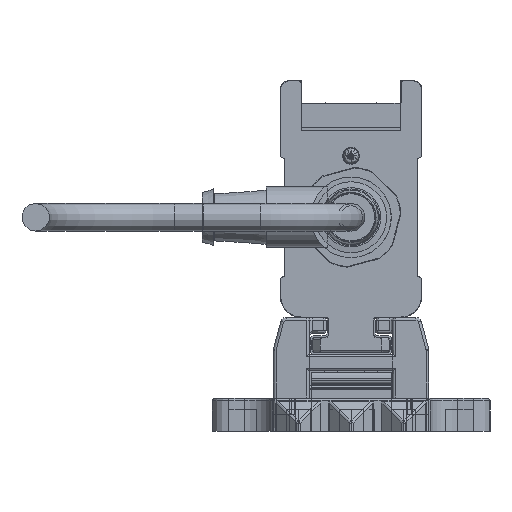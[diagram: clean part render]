
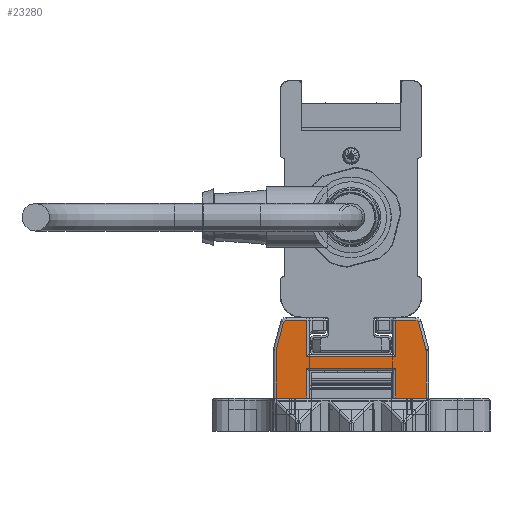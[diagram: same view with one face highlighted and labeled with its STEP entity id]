
A CAD part, left-side view. The second image highlights one B-rep face of the part: STEP entity #23280.
In plain terms, the highlighted planar face has unit normal (-1, 0, 0).
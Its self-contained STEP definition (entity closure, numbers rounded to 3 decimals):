
#23280=ADVANCED_FACE('', (#23290), #23300, .T.);
#141290=AXIS2_PLACEMENT_3D('Ax2Pl3d', #141300, #141310, #141320);
#141530=AXIS2_PLACEMENT_3D('Ax2Pl3d', #141540, #141550, #141560);
#146410=AXIS2_PLACEMENT_3D('Ax2Pl3d', #146420, #146430, #146440);
#151490=AXIS2_PLACEMENT_3D('Ax2Pl3d', #151500, #151510, #151520);
#161170=AXIS2_PLACEMENT_3D('Ax2Pl3d', #161180, #161190, #161200);
#583560=CARTESIAN_POINT('', (-747.669,-3846.345,
331.37));
#141300=CARTESIAN_POINT('HicPkt', (-747.669,-3845.379,
331.111));
#583570=CARTESIAN_POINT('', (-747.669,-3846.379,
331.111));
#583580=CARTESIAN_POINT('', (-747.669,-3845.037,
336.255));
#583600=CARTESIAN_POINT('', (-747.669,-3845.037,
336.255));
#583630=CARTESIAN_POINT('', (-747.669,-3844.554,
336.625));
#141540=CARTESIAN_POINT('HicPkt', (-747.669,-3844.554,
336.125));
#583850=CARTESIAN_POINT('', (-747.669,-3846.379,
322.625));
#583860=CARTESIAN_POINT('', (-747.669,-3840.881,
322.625));
#583870=CARTESIAN_POINT('', (-747.669,-3840.881,
322.625));
#583950=CARTESIAN_POINT('', (-747.669,-3824.881,
322.625));
#583960=CARTESIAN_POINT('', (-747.669,-3819.383,
322.625));
#583970=CARTESIAN_POINT('', (-747.669,-3819.383,
322.625));
#146420=CARTESIAN_POINT('HicPkt', (-747.669,-3821.209,
336.125));
#586440=CARTESIAN_POINT('', (-747.669,-3820.726,
336.255));
#586450=CARTESIAN_POINT('', (-747.669,-3821.209,
336.625));
#586460=CARTESIAN_POINT('', (-747.669,-3840.881,
330.025));
#586470=CARTESIAN_POINT('', (-747.669,-3824.881,
330.025));
#586480=CARTESIAN_POINT('', (-747.669,-3840.881,
330.025));
#586640=CARTESIAN_POINT('', (-747.669,-3840.881,
328.005));
#586650=CARTESIAN_POINT('', (-747.669,-3824.881,
328.005));
#586660=CARTESIAN_POINT('', (-747.669,-3824.881,
328.005));
#586670=CARTESIAN_POINT('', (-747.669,-3840.881,
328.005));
#586690=CARTESIAN_POINT('', (-747.669,-3824.881,
322.625));
#586700=CARTESIAN_POINT('', (-747.669,-3824.881,
330.025));
#586710=CARTESIAN_POINT('', (-747.669,-3824.881,
336.625));
#587560=CARTESIAN_POINT('', (-747.669,-3824.881,
336.625));
#587570=CARTESIAN_POINT('', (-747.669,-3820.726,
336.255));
#587580=CARTESIAN_POINT('', (-747.669,-3819.417,
331.37));
#587770=CARTESIAN_POINT('', (-747.669,-3819.383,
331.111));
#587780=CARTESIAN_POINT('', (-747.669,-3819.383,
331.111));
#151500=CARTESIAN_POINT('HicPkt', (-747.669,-3820.383,
331.111));
#588590=CARTESIAN_POINT('', (-747.669,-3846.379,
331.111));
#161180=CARTESIAN_POINT('HicPkt', (-747.669,-3844.554,
336.625));
#590390=CARTESIAN_POINT('', (-747.669,-3840.881,
336.625));
#590400=CARTESIAN_POINT('', (-747.669,-3840.881,
336.625));
#590410=CARTESIAN_POINT('', (-747.669,-3840.881,
336.625));
#675070=CIRCLE('Circle', #141290, 1.);
#675110=CIRCLE('Circle', #141530, 0.5);
#675690=CIRCLE('Circle', #146410, 0.5);
#676220=CIRCLE('Circle', #151490, 1.);
#141310=DIRECTION('Axis', (-1.,0.,
0.));
#141320=DIRECTION('RefDirection', (0.,
0.,-1.));
#942570=DIRECTION('', (0.,0.259,
0.966));
#141550=DIRECTION('Axis', (-1.,0.,
0.));
#141560=DIRECTION('RefDirection', (0.,
0.,-1.));
#942680=DIRECTION('', (0.,1.,0.));
#942720=DIRECTION('', (0.,1.,0.));
#146430=DIRECTION('Axis', (1.,0.,
0.));
#146440=DIRECTION('RefDirection', (0.,
0.,-1.));
#943910=DIRECTION('', (0.,-1.,0.));
#944010=DIRECTION('', (0.,1.,0.));
#944020=DIRECTION('', (0.,0.,1.));
#944040=DIRECTION('', (0.,0.,-1.));
#944050=DIRECTION('', (0.,0.,-1.));
#944480=DIRECTION('', (0.,-1.,0.));
#944490=DIRECTION('', (0.,-0.259,0.966));
#944580=DIRECTION('', (0.,0.,1.));
#151510=DIRECTION('Axis', (1.,0.,
0.));
#151520=DIRECTION('RefDirection', (0.,
0.,-1.));
#944950=DIRECTION('', (0.,0.,1.));
#161190=DIRECTION('Axis', (-1.,0.,
0.));
#161200=DIRECTION('RefDirection', (0.,
0.,-1.));
#945790=DIRECTION('', (0.,1.,0.));
#945800=DIRECTION('', (0.,0.,1.));
#1009400=EDGE_CURVE('', #1009410, #1009390, #675070, .T.);
#1009460=EDGE_CURVE('', #1009390, #1009440, #1009470, .T.);
#1009530=EDGE_CURVE('', #1009440, #1009520, #675110, .T.);
#1009980=EDGE_CURVE('', #1009970, #1009990, #1010000, .T.);
#1010140=EDGE_CURVE('', #1010130, #1010150, #1010160, .T.);
#1014500=EDGE_CURVE('', #1014510, #1014520, #675690, .T.);
#1014550=EDGE_CURVE('', #1014560, #1014570, #1014580, .T.);
#1014920=EDGE_CURVE('', #1014900, #1014930, #1014940, .T.);
#1014970=EDGE_CURVE('', #1009990, #1014900, #1014980, .T.);
#1015010=EDGE_CURVE('', #1014930, #1010130, #1015020, .T.);
#1015030=EDGE_CURVE('', #1015040, #1014560, #1015050, .T.);
#1016870=EDGE_CURVE('', #1014520, #1015040, #1016880, .T.);
#1016940=EDGE_CURVE('', #1016950, #1014510, #1016960, .T.);
#1017380=EDGE_CURVE('', #1010150, #1017390, #1017400, .T.);
#1017420=EDGE_CURVE('', #1017390, #1016950, #676220, .T.);
#1019130=EDGE_CURVE('', #1009970, #1009410, #1019140, .T.);
#1022940=EDGE_CURVE('', #1009520, #1022950, #1022960, .T.);
#1022970=EDGE_CURVE('', #1014570, #1022950, #1022980, .T.);
#1216860=EDGE_LOOP('Edge_loop', (#1216870,#1216880,#1216890,#1216900,
#1216910,#1216920,#1216930,#1216940,#1216950,#1216960,#1216970,
#1216980,#1216990,#1217000,#1217010,#1217020,#1217030,#1217040));
#23290=FACE_OUTER_BOUND('Face_outer_bound', #1216860, .T.);
#1009470=LINE('Line', #583600, #1391440);
#1010000=LINE('Line', #583860, #1391550);
#1010160=LINE('Line', #583960, #1391590);
#1014580=LINE('Line', #586460, #1392780);
#1014940=LINE('Line', #586650, #1392880);
#1014980=LINE('Line', #586670, #1392890);
#1015020=LINE('Line', #586690, #1392910);
#1015050=LINE('Line', #586700, #1392920);
#1016880=LINE('Line', #587560, #1393350);
#1016960=LINE('Line', #587570, #1393360);
#1017400=LINE('Line', #587770, #1393450);
#1019140=LINE('Line', #588590, #1393820);
#1022960=LINE('Line', #590390, #1394660);
#1022980=LINE('Line', #590410, #1394670);
#1216870=ORIENTED_EDGE('', *, *, #1022940, .T.);
#1216880=ORIENTED_EDGE('', *, *, #1022970, .F.);
#1216890=ORIENTED_EDGE('', *, *, #1014550, .F.);
#1216900=ORIENTED_EDGE('', *, *, #1015030, .F.);
#1216910=ORIENTED_EDGE('', *, *, #1016870, .F.);
#1216920=ORIENTED_EDGE('', *, *, #1014500, .F.);
#1216930=ORIENTED_EDGE('', *, *, #1016940, .F.);
#1216940=ORIENTED_EDGE('', *, *, #1017420, .F.);
#1216950=ORIENTED_EDGE('', *, *, #1017380, .F.);
#1216960=ORIENTED_EDGE('', *, *, #1010140, .F.);
#1216970=ORIENTED_EDGE('', *, *, #1015010, .F.);
#1216980=ORIENTED_EDGE('', *, *, #1014920, .F.);
#1216990=ORIENTED_EDGE('', *, *, #1014970, .F.);
#1217000=ORIENTED_EDGE('', *, *, #1009980, .F.);
#1217010=ORIENTED_EDGE('', *, *, #1019130, .T.);
#1217020=ORIENTED_EDGE('', *, *, #1009400, .T.);
#1217030=ORIENTED_EDGE('', *, *, #1009460, .T.);
#1217040=ORIENTED_EDGE('', *, *, #1009530, .T.);
#23300=PLANE('Plane', #161170);
#1391440=VECTOR('', #942570, 5.057);
#1391550=VECTOR('', #942680, 5.498);
#1391590=VECTOR('', #942720, 5.498);
#1392780=VECTOR('', #943910, 16.);
#1392880=VECTOR('', #944010, 16.);
#1392890=VECTOR('', #944020, 5.38);
#1392910=VECTOR('', #944040, 5.38);
#1392920=VECTOR('', #944050, 6.6);
#1393350=VECTOR('', #944480, 3.672);
#1393360=VECTOR('', #944490, 5.057);
#1393450=VECTOR('', #944580, 8.486);
#1393820=VECTOR('', #944950, 8.486);
#1394660=VECTOR('', #945790, 3.672);
#1394670=VECTOR('', #945800, 6.6);
#1009390=VERTEX_POINT('', #583560);
#1009410=VERTEX_POINT('', #583570);
#1009440=VERTEX_POINT('', #583580);
#1009520=VERTEX_POINT('', #583630);
#1009970=VERTEX_POINT('', #583850);
#1009990=VERTEX_POINT('', #583870);
#1010130=VERTEX_POINT('', #583950);
#1010150=VERTEX_POINT('', #583970);
#1014510=VERTEX_POINT('', #586440);
#1014520=VERTEX_POINT('', #586450);
#1014560=VERTEX_POINT('', #586470);
#1014570=VERTEX_POINT('', #586480);
#1014900=VERTEX_POINT('', #586640);
#1014930=VERTEX_POINT('', #586660);
#1015040=VERTEX_POINT('', #586710);
#1016950=VERTEX_POINT('', #587580);
#1017390=VERTEX_POINT('', #587780);
#1022950=VERTEX_POINT('', #590400);
